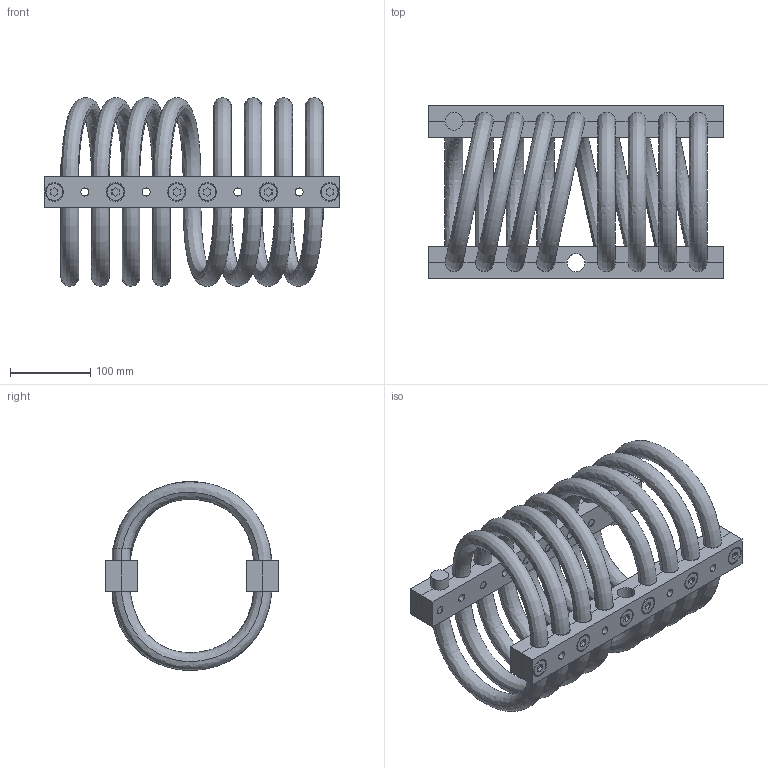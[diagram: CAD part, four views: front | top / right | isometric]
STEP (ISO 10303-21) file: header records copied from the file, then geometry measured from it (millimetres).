
FILE_DESCRIPTION (( 'STEP AP214' ), '1' );
FILE_NAME ('WR28-900-8DM.STEP', '2018-12-07T10:13:00', ( 'user' ), ( 'Microsoft' ), 'SwSTEP 2.0', 'SolidWorks 2016', '' );
FILE_SCHEMA (( 'AUTOMOTIVE_DESIGN' ));
Length unit declared in the file: millimetre
Products named in the file (1): WR28-900-8DM
Bounding box: 368.3 x 216 x 234.99 mm (x, y, z)
Volume: 2940318.9 mm3; surface area: 622789.4 mm2
Topology: 34 solids, 34 shells, 664 faces, 1522 edges, 962 vertices
Faces by surface type: plane 300, cylinder 258, cone 72, bspline 34
Entity records: 36713 total; most frequent: CARTESIAN_POINT 20317, DIRECTION 3148, ORIENTED_EDGE 3044, EDGE_CURVE 1522, AXIS2_PLACEMENT_3D 1151, VERTEX_POINT 962, VECTOR 846, LINE 846
